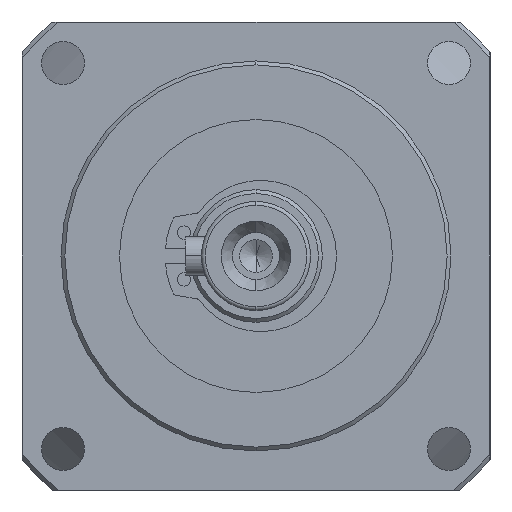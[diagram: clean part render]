
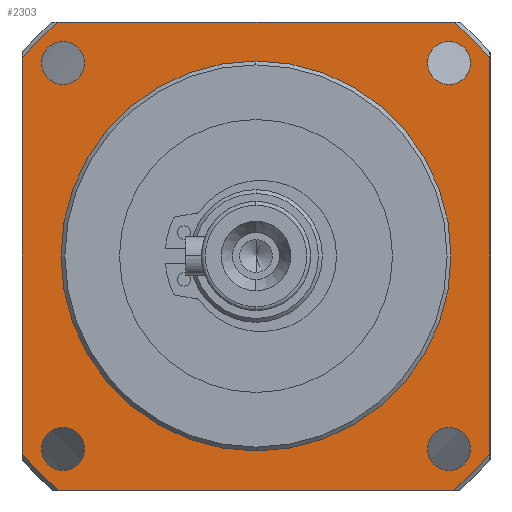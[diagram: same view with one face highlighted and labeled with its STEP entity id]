
A CAD part, left-side view. The second image highlights one B-rep face of the part: STEP entity #2303.
In plain terms, the highlighted planar face has unit normal (-1, 0, 0).
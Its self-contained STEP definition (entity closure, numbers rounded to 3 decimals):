
#931=PLANE('',#7391);
#1023=FACE_BOUND('',#3057,.T.);
#1024=FACE_BOUND('',#3058,.T.);
#1025=FACE_BOUND('',#3059,.T.);
#1026=FACE_BOUND('',#3060,.T.);
#1027=FACE_BOUND('',#3061,.T.);
#1028=FACE_BOUND('',#3062,.T.);
#1582=LINE('',#10972,#1965);
#1585=LINE('',#10986,#1968);
#1588=LINE('',#11000,#1971);
#1591=LINE('',#11014,#1974);
#1965=VECTOR('',#8786,1.);
#1968=VECTOR('',#8791,1.);
#1971=VECTOR('',#8796,1.);
#1974=VECTOR('',#8801,1.);
#2303=ADVANCED_FACE('',(#1023,#1024,#1025,#1026,#1027,#1028),#931,.F.);
#3057=EDGE_LOOP('',(#4063,#4064));
#3058=EDGE_LOOP('',(#4065,#4066));
#3059=EDGE_LOOP('',(#4067,#4068));
#3060=EDGE_LOOP('',(#4069,#4070));
#3061=EDGE_LOOP('',(#4071,#4072));
#3062=EDGE_LOOP('',(#4073,#4074,#4075,#4076,#4077,#4078,#4079,#4080));
#4063=ORIENTED_EDGE('',*,*,#6103,.F.);
#4064=ORIENTED_EDGE('',*,*,#5998,.F.);
#4065=ORIENTED_EDGE('',*,*,#6104,.F.);
#4066=ORIENTED_EDGE('',*,*,#6002,.F.);
#4067=ORIENTED_EDGE('',*,*,#6105,.F.);
#4068=ORIENTED_EDGE('',*,*,#6006,.F.);
#4069=ORIENTED_EDGE('',*,*,#6106,.F.);
#4070=ORIENTED_EDGE('',*,*,#6010,.F.);
#4071=ORIENTED_EDGE('',*,*,#6049,.F.);
#4072=ORIENTED_EDGE('',*,*,#6107,.F.);
#4073=ORIENTED_EDGE('',*,*,#6101,.T.);
#4074=ORIENTED_EDGE('',*,*,#6108,.T.);
#4075=ORIENTED_EDGE('',*,*,#6086,.T.);
#4076=ORIENTED_EDGE('',*,*,#6109,.T.);
#4077=ORIENTED_EDGE('',*,*,#6091,.T.);
#4078=ORIENTED_EDGE('',*,*,#6110,.T.);
#4079=ORIENTED_EDGE('',*,*,#6096,.T.);
#4080=ORIENTED_EDGE('',*,*,#6111,.T.);
#5329=VERTEX_POINT('',#10717);
#5330=VERTEX_POINT('',#10719);
#5333=VERTEX_POINT('',#10726);
#5334=VERTEX_POINT('',#10728);
#5337=VERTEX_POINT('',#10735);
#5338=VERTEX_POINT('',#10737);
#5341=VERTEX_POINT('',#10744);
#5342=VERTEX_POINT('',#10746);
#5377=VERTEX_POINT('',#10831);
#5378=VERTEX_POINT('',#10832);
#5410=VERTEX_POINT('',#10971);
#5411=VERTEX_POINT('',#10973);
#5412=VERTEX_POINT('',#10985);
#5413=VERTEX_POINT('',#10987);
#5414=VERTEX_POINT('',#10999);
#5415=VERTEX_POINT('',#11001);
#5416=VERTEX_POINT('',#11013);
#5417=VERTEX_POINT('',#11015);
#5998=EDGE_CURVE('',#5329,#5330,#6720,.T.);
#6002=EDGE_CURVE('',#5333,#5334,#6722,.T.);
#6006=EDGE_CURVE('',#5337,#5338,#6724,.T.);
#6010=EDGE_CURVE('',#5341,#5342,#6726,.T.);
#6049=EDGE_CURVE('',#5377,#5378,#6746,.T.);
#6086=EDGE_CURVE('',#5411,#5410,#1582,.T.);
#6091=EDGE_CURVE('',#5413,#5412,#1585,.T.);
#6096=EDGE_CURVE('',#5415,#5414,#1588,.T.);
#6101=EDGE_CURVE('',#5417,#5416,#1591,.T.);
#6103=EDGE_CURVE('',#5330,#5329,#6760,.T.);
#6104=EDGE_CURVE('',#5334,#5333,#6761,.T.);
#6105=EDGE_CURVE('',#5338,#5337,#6762,.T.);
#6106=EDGE_CURVE('',#5342,#5341,#6763,.T.);
#6107=EDGE_CURVE('',#5378,#5377,#6764,.T.);
#6108=EDGE_CURVE('',#5416,#5411,#6765,.T.);
#6109=EDGE_CURVE('',#5410,#5413,#6766,.T.);
#6110=EDGE_CURVE('',#5412,#5415,#6767,.T.);
#6111=EDGE_CURVE('',#5414,#5417,#6768,.T.);
#6720=CIRCLE('',#7316,2.75);
#6722=CIRCLE('',#7319,2.75);
#6724=CIRCLE('',#7322,2.75);
#6726=CIRCLE('',#7325,2.75);
#6746=CIRCLE('',#7356,25.);
#6760=CIRCLE('',#7382,2.75);
#6761=CIRCLE('',#7383,2.75);
#6762=CIRCLE('',#7384,2.75);
#6763=CIRCLE('',#7385,2.75);
#6764=CIRCLE('',#7386,25.);
#6765=CIRCLE('',#7387,39.25);
#6766=CIRCLE('',#7388,39.25);
#6767=CIRCLE('',#7389,39.25);
#6768=CIRCLE('',#7390,39.25);
#7316=AXIS2_PLACEMENT_3D('',#10718,#8617,#8618);
#7319=AXIS2_PLACEMENT_3D('',#10727,#8625,#8626);
#7322=AXIS2_PLACEMENT_3D('',#10736,#8633,#8634);
#7325=AXIS2_PLACEMENT_3D('',#10745,#8641,#8642);
#7356=AXIS2_PLACEMENT_3D('',#10830,#8722,#8723);
#7382=AXIS2_PLACEMENT_3D('',#11021,#8804,#8805);
#7383=AXIS2_PLACEMENT_3D('',#11022,#8806,#8807);
#7384=AXIS2_PLACEMENT_3D('',#11023,#8808,#8809);
#7385=AXIS2_PLACEMENT_3D('',#11024,#8810,#8811);
#7386=AXIS2_PLACEMENT_3D('',#11025,#8812,#8813);
#7387=AXIS2_PLACEMENT_3D('',#11026,#8814,#8815);
#7388=AXIS2_PLACEMENT_3D('',#11027,#8816,#8817);
#7389=AXIS2_PLACEMENT_3D('',#11028,#8818,#8819);
#7390=AXIS2_PLACEMENT_3D('',#11029,#8820,#8821);
#7391=AXIS2_PLACEMENT_3D('',#11030,#8822,#8823);
#8617=DIRECTION('',(-1.,0.,0.));
#8618=DIRECTION('',(0.,-1.,0.));
#8625=DIRECTION('',(-1.,0.,0.));
#8626=DIRECTION('',(0.,0.,-1.));
#8633=DIRECTION('',(-1.,0.,0.));
#8634=DIRECTION('',(0.,1.,0.));
#8641=DIRECTION('',(-1.,0.,0.));
#8642=DIRECTION('',(0.,0.,1.));
#8722=DIRECTION('',(-1.,0.,0.));
#8723=DIRECTION('',(0.,0.,1.));
#8786=DIRECTION('',(0.,0.,1.));
#8791=DIRECTION('',(0.,1.,0.));
#8796=DIRECTION('',(0.,0.,-1.));
#8801=DIRECTION('',(0.,-1.,0.));
#8804=DIRECTION('',(-1.,0.,0.));
#8805=DIRECTION('',(0.,-1.,0.));
#8806=DIRECTION('',(-1.,0.,0.));
#8807=DIRECTION('',(0.,0.,-1.));
#8808=DIRECTION('',(-1.,0.,0.));
#8809=DIRECTION('',(0.,1.,0.));
#8810=DIRECTION('',(-1.,0.,0.));
#8811=DIRECTION('',(0.,0.,1.));
#8812=DIRECTION('',(-1.,0.,0.));
#8813=DIRECTION('',(0.,0.,1.));
#8814=DIRECTION('',(-1.,0.,0.));
#8815=DIRECTION('',(0.,0.,1.));
#8816=DIRECTION('',(-1.,0.,0.));
#8817=DIRECTION('',(0.,0.,1.));
#8818=DIRECTION('',(-1.,0.,0.));
#8819=DIRECTION('',(0.,0.,1.));
#8820=DIRECTION('',(-1.,0.,0.));
#8821=DIRECTION('',(0.,0.,1.));
#8822=DIRECTION('',(1.,0.,0.));
#8823=DIRECTION('',(0.,0.,1.));
#10717=CARTESIAN_POINT('',(35.,-24.749,21.999));
#10718=CARTESIAN_POINT('',(35.,-24.749,24.749));
#10719=CARTESIAN_POINT('',(35.,-24.749,27.499));
#10726=CARTESIAN_POINT('',(35.,-24.749,-27.499));
#10727=CARTESIAN_POINT('',(35.,-24.749,-24.749));
#10728=CARTESIAN_POINT('',(35.,-24.749,-21.999));
#10735=CARTESIAN_POINT('',(35.,24.749,-27.499));
#10736=CARTESIAN_POINT('',(35.,24.749,-24.749));
#10737=CARTESIAN_POINT('',(35.,24.749,-21.999));
#10744=CARTESIAN_POINT('',(35.,24.749,21.999));
#10745=CARTESIAN_POINT('',(35.,24.749,24.749));
#10746=CARTESIAN_POINT('',(35.,24.749,27.499));
#10830=CARTESIAN_POINT('',(35.,0.,0.));
#10831=CARTESIAN_POINT('',(35.,0.,25.));
#10832=CARTESIAN_POINT('',(35.,0.,-25.));
#10971=CARTESIAN_POINT('',(35.,-30.,25.309));
#10972=CARTESIAN_POINT('',(35.,-30.,30.));
#10973=CARTESIAN_POINT('',(35.,-30.,-25.309));
#10985=CARTESIAN_POINT('',(35.,25.309,30.));
#10986=CARTESIAN_POINT('',(35.,-30.,30.));
#10987=CARTESIAN_POINT('',(35.,-25.309,30.));
#10999=CARTESIAN_POINT('',(35.,30.,-25.309));
#11000=CARTESIAN_POINT('',(35.,30.,30.));
#11001=CARTESIAN_POINT('',(35.,30.,25.309));
#11013=CARTESIAN_POINT('',(35.,-25.309,-30.));
#11014=CARTESIAN_POINT('',(35.,-30.,-30.));
#11015=CARTESIAN_POINT('',(35.,25.309,-30.));
#11021=CARTESIAN_POINT('',(35.,-24.749,24.749));
#11022=CARTESIAN_POINT('',(35.,-24.749,-24.749));
#11023=CARTESIAN_POINT('',(35.,24.749,-24.749));
#11024=CARTESIAN_POINT('',(35.,24.749,24.749));
#11025=CARTESIAN_POINT('',(35.,0.,0.));
#11026=CARTESIAN_POINT('',(35.,0.,0.));
#11027=CARTESIAN_POINT('',(35.,0.,0.));
#11028=CARTESIAN_POINT('',(35.,0.,0.));
#11029=CARTESIAN_POINT('',(35.,0.,0.));
#11030=CARTESIAN_POINT('',(35.,25.,0.));
